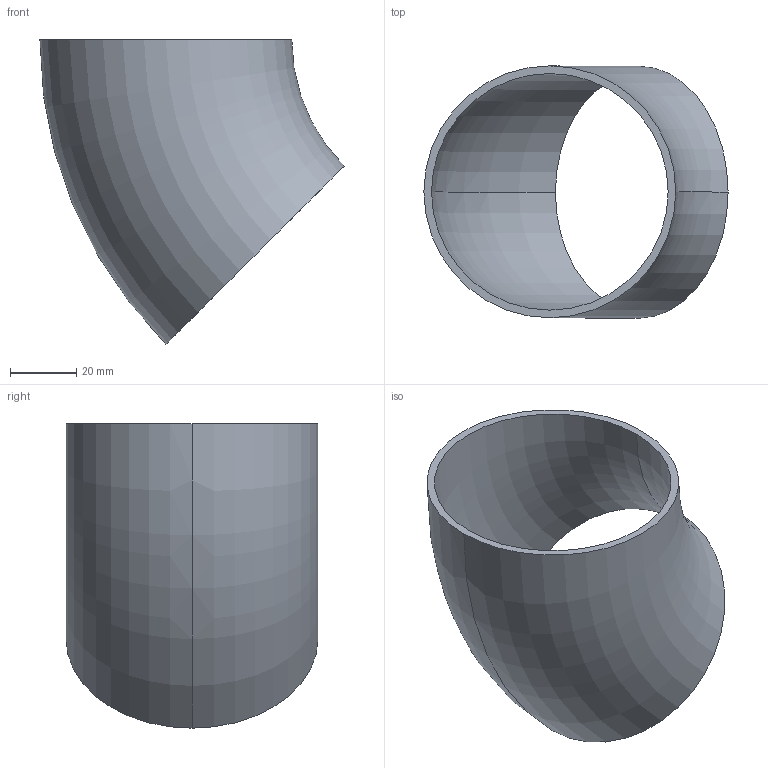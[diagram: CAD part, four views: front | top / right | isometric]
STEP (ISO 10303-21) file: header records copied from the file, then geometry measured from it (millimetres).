
FILE_DESCRIPTION (( 'STEP AP203' ), '1' );
FILE_NAME ('3D_R1650_76.1x2.3_17351360.STEP', '2024-08-03T09:00:26', ( '' ), ( '' ), 'SwSTEP 2.0', 'SolidWorks 2024', '' );
FILE_SCHEMA (( 'CONFIG_CONTROL_DESIGN' ));
Length unit declared in the file: millimetre
Products named in the file (1): 3D_R1650_76.1x2.3_17351360
Bounding box: 91.9 x 76.1 x 91.96 mm (x, y, z)
Volume: 38531.1 mm3; surface area: 34571.8 mm2
Topology: 1 solids, 1 shells, 6 faces, 12 edges, 8 vertices
Faces by surface type: torus 4, plane 2
Entity records: 249 total; most frequent: DIRECTION 38, CARTESIAN_POINT 27, ORIENTED_EDGE 24, AXIS2_PLACEMENT_3D 19, CIRCLE 12, EDGE_CURVE 12, EDGE_LOOP 8, VERTEX_POINT 8
